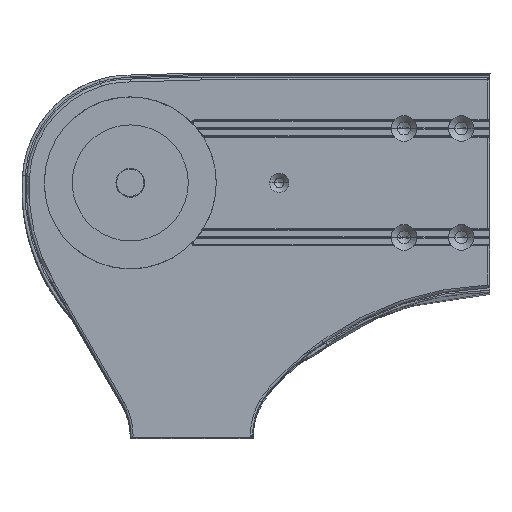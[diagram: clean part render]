
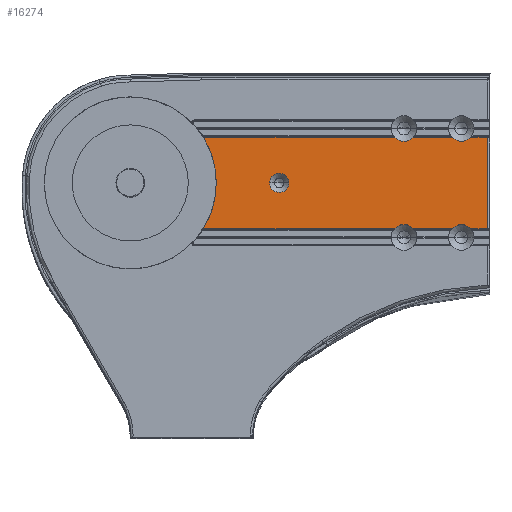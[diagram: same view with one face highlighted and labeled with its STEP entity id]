
A CAD part, top view. The second image highlights one B-rep face of the part: STEP entity #16274.
In plain terms, the highlighted planar face has unit normal (0, 0, 1).
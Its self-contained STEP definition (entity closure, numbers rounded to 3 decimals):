
#73 = VERTEX_POINT ( 'NONE', #15398 ) ;
#181 = CIRCLE ( 'NONE', #17574, 2. ) ;
#317 = CIRCLE ( 'NONE', #13941, 8.96 ) ;
#350 = LINE ( 'NONE', #14773, #3029 ) ;
#381 = EDGE_CURVE ( 'NONE', #4539, #8270, #5406, .T. ) ;
#548 = AXIS2_PLACEMENT_3D ( 'NONE', #12361, #20059, #4414 ) ;
#627 = CARTESIAN_POINT ( 'NONE',  ( 104., 0., 326.5 ) ) ;
#713 = DIRECTION ( 'NONE',  ( 1., 0., 0. ) ) ;
#841 = CIRCLE ( 'NONE', #8559, 8.96 ) ;
#1202 = CARTESIAN_POINT ( 'NONE',  ( 183.967, -32., 326.5 ) ) ;
#1440 = EDGE_CURVE ( 'NONE', #18181, #17097, #5397, .T. ) ;
#1443 = VERTEX_POINT ( 'NONE', #5287 ) ;
#1478 = CIRCLE ( 'NONE', #3812, 6.72 ) ;
#1501 = VECTOR ( 'NONE', #5802, 1000. ) ;
#1505 = CARTESIAN_POINT ( 'NONE',  ( 224.385, 32., 326.5 ) ) ;
#1648 = DIRECTION ( 'NONE',  ( 0., 0., 1. ) ) ;
#1687 = DIRECTION ( 'NONE',  ( 1., 0., 0. ) ) ;
#1738 = DIRECTION ( 'NONE',  ( -1., 0., 0. ) ) ;
#1816 = CIRCLE ( 'NONE', #11632, 2. ) ;
#1983 = CARTESIAN_POINT ( 'NONE',  ( 237.694, 32., 326.5 ) ) ;
#2043 = CIRCLE ( 'NONE', #7483, 8.96 ) ;
#2286 = AXIS2_PLACEMENT_3D ( 'NONE', #627, #8324, #17767 ) ;
#2391 = DIRECTION ( 'NONE',  ( 0., 0., -1. ) ) ;
#2823 = CARTESIAN_POINT ( 'NONE',  ( 51.247, -32., 326.5 ) ) ;
#2937 = CARTESIAN_POINT ( 'NONE',  ( 51.247, 32., 326.5 ) ) ;
#3029 = VECTOR ( 'NONE', #713, 1000. ) ;
#3063 = LINE ( 'NONE', #20267, #19460 ) ;
#3306 = ORIENTED_EDGE ( 'NONE', *, *, #1440, .F. ) ;
#3357 = CARTESIAN_POINT ( 'NONE',  ( 191.04, 38., 326.5 ) ) ;
#3380 = CARTESIAN_POINT ( 'NONE',  ( 249.04, 32.5, 326.5 ) ) ;
#3427 = ORIENTED_EDGE ( 'NONE', *, *, #17706, .T. ) ;
#3525 = EDGE_CURVE ( 'NONE', #1443, #17746, #3063, .T. ) ;
#3812 = AXIS2_PLACEMENT_3D ( 'NONE', #19476, #8448, #3944 ) ;
#3876 = DIRECTION ( 'NONE',  ( 1., 0., 0. ) ) ;
#3944 = DIRECTION ( 'NONE',  ( 1., 0., 0. ) ) ;
#3982 = VECTOR ( 'NONE', #9091, 1000. ) ;
#3993 = CARTESIAN_POINT ( 'NONE',  ( 51.247, 32., 326.5 ) ) ;
#4127 = DIRECTION ( 'NONE',  ( 1., 0., 0. ) ) ;
#4183 = DIRECTION ( 'NONE',  ( 0., 0., -1. ) ) ;
#4207 = ORIENTED_EDGE ( 'NONE', *, *, #4514, .T. ) ;
#4272 = VERTEX_POINT ( 'NONE', #10308 ) ;
#4414 = DIRECTION ( 'NONE',  ( 1., 0., 0. ) ) ;
#4514 = EDGE_CURVE ( 'NONE', #20018, #12786, #350, .T. ) ;
#4539 = VERTEX_POINT ( 'NONE', #11675 ) ;
#4622 = EDGE_CURVE ( 'NONE', #19112, #4272, #1816, .T. ) ;
#4827 = ORIENTED_EDGE ( 'NONE', *, *, #13262, .T. ) ;
#5032 = AXIS2_PLACEMENT_3D ( 'NONE', #10081, #6882, #8398 ) ;
#5099 = DIRECTION ( 'NONE',  ( 1., 0., 0. ) ) ;
#5287 = CARTESIAN_POINT ( 'NONE',  ( 237.694, -32., 326.5 ) ) ;
#5325 = CARTESIAN_POINT ( 'NONE',  ( 238.113, 32., 326.5 ) ) ;
#5347 = VECTOR ( 'NONE', #15954, 1000. ) ;
#5397 = CIRCLE ( 'NONE', #2286, 6.72 ) ;
#5406 = LINE ( 'NONE', #5325, #12022 ) ;
#5802 = DIRECTION ( 'NONE',  ( 1., 0., 0. ) ) ;
#6041 = CARTESIAN_POINT ( 'NONE',  ( 184.385, -32., 326.5 ) ) ;
#6130 = CARTESIAN_POINT ( 'NONE',  ( 110.72, 0., 326.5 ) ) ;
#6476 = EDGE_LOOP ( 'NONE', ( #11204, #13151, #10838, #19093, #4827, #18652, #4207, #11235, #10656, #16268, #7107, #16527, #17876, #9862, #3427 ) ) ;
#6579 = EDGE_CURVE ( 'NONE', #17097, #18181, #1478, .T. ) ;
#6749 = EDGE_CURVE ( 'NONE', #16931, #4272, #16920, .T. ) ;
#6882 = DIRECTION ( 'NONE',  ( 0., 0., 1. ) ) ;
#7045 = PLANE ( 'NONE',  #8683 ) ;
#7107 = ORIENTED_EDGE ( 'NONE', *, *, #381, .T. ) ;
#7133 = CARTESIAN_POINT ( 'NONE',  ( 197.694, -32., 326.5 ) ) ;
#7483 = AXIS2_PLACEMENT_3D ( 'NONE', #7817, #1648, #11141 ) ;
#7723 = EDGE_CURVE ( 'NONE', #73, #10906, #16420, .T. ) ;
#7771 = EDGE_CURVE ( 'NONE', #13588, #16931, #9633, .T. ) ;
#7817 = CARTESIAN_POINT ( 'NONE',  ( 231.04, -38., 326.5 ) ) ;
#7871 = DIRECTION ( 'NONE',  ( 0., 0., 1. ) ) ;
#7987 = VERTEX_POINT ( 'NONE', #2823 ) ;
#8205 = VERTEX_POINT ( 'NONE', #1505 ) ;
#8270 = VERTEX_POINT ( 'NONE', #1983 ) ;
#8324 = DIRECTION ( 'NONE',  ( 0., 0., 1. ) ) ;
#8398 = DIRECTION ( 'NONE',  ( 1., 0., 0. ) ) ;
#8448 = DIRECTION ( 'NONE',  ( 0., 0., 1. ) ) ;
#8559 = AXIS2_PLACEMENT_3D ( 'NONE', #12814, #18876, #14363 ) ;
#8678 = LINE ( 'NONE', #2937, #3982 ) ;
#8683 = AXIS2_PLACEMENT_3D ( 'NONE', #14774, #13294, #4127 ) ;
#8801 = CARTESIAN_POINT ( 'NONE',  ( 97.28, 0., 326.5 ) ) ;
#9091 = DIRECTION ( 'NONE',  ( -1., 0., 0. ) ) ;
#9633 = CIRCLE ( 'NONE', #5032, 60. ) ;
#9767 = DIRECTION ( 'NONE',  ( 0., 0., 1. ) ) ;
#9862 = ORIENTED_EDGE ( 'NONE', *, *, #7723, .F. ) ;
#10081 = CARTESIAN_POINT ( 'NONE',  ( 0., 0., 326.5 ) ) ;
#10308 = CARTESIAN_POINT ( 'NONE',  ( 50.707, 32.074, 326.5 ) ) ;
#10656 = ORIENTED_EDGE ( 'NONE', *, *, #3525, .T. ) ;
#10838 = ORIENTED_EDGE ( 'NONE', *, *, #7771, .F. ) ;
#10906 = VERTEX_POINT ( 'NONE', #13168 ) ;
#11141 = DIRECTION ( 'NONE',  ( 1., 0., 0. ) ) ;
#11204 = ORIENTED_EDGE ( 'NONE', *, *, #4622, .T. ) ;
#11235 = ORIENTED_EDGE ( 'NONE', *, *, #19761, .F. ) ;
#11632 = AXIS2_PLACEMENT_3D ( 'NONE', #19829, #4183, #15160 ) ;
#11675 = CARTESIAN_POINT ( 'NONE',  ( 249.04, 32., 326.5 ) ) ;
#11698 = CARTESIAN_POINT ( 'NONE',  ( 51.247, -34., 326.5 ) ) ;
#12022 = VECTOR ( 'NONE', #19456, 1000. ) ;
#12361 = CARTESIAN_POINT ( 'NONE',  ( 0., 0., 326.5 ) ) ;
#12434 = EDGE_CURVE ( 'NONE', #8205, #8270, #841, .T. ) ;
#12624 = CARTESIAN_POINT ( 'NONE',  ( 198.113, 32., 326.5 ) ) ;
#12672 = LINE ( 'NONE', #3380, #5347 ) ;
#12786 = VERTEX_POINT ( 'NONE', #14103 ) ;
#12814 = CARTESIAN_POINT ( 'NONE',  ( 231.04, 38., 326.5 ) ) ;
#12876 = EDGE_LOOP ( 'NONE', ( #13631, #3306 ) ) ;
#13113 = DIRECTION ( 'NONE',  ( 1., 0., 0. ) ) ;
#13151 = ORIENTED_EDGE ( 'NONE', *, *, #6749, .F. ) ;
#13168 = CARTESIAN_POINT ( 'NONE',  ( 197.694, 32., 326.5 ) ) ;
#13262 = EDGE_CURVE ( 'NONE', #7987, #19666, #18130, .T. ) ;
#13294 = DIRECTION ( 'NONE',  ( 0., 0., 1. ) ) ;
#13576 = FACE_BOUND ( 'NONE', #12876, .T. ) ;
#13588 = VERTEX_POINT ( 'NONE', #16462 ) ;
#13631 = ORIENTED_EDGE ( 'NONE', *, *, #6579, .F. ) ;
#13658 = AXIS2_PLACEMENT_3D ( 'NONE', #3357, #9767, #5099 ) ;
#13821 = CARTESIAN_POINT ( 'NONE',  ( 249.04, -32., 326.5 ) ) ;
#13941 = AXIS2_PLACEMENT_3D ( 'NONE', #17176, #7871, #13113 ) ;
#14103 = CARTESIAN_POINT ( 'NONE',  ( 224.385, -32., 326.5 ) ) ;
#14363 = DIRECTION ( 'NONE',  ( 1., 0., 0. ) ) ;
#14568 = LINE ( 'NONE', #12624, #19960 ) ;
#14773 = CARTESIAN_POINT ( 'NONE',  ( 223.967, -32., 326.5 ) ) ;
#14774 = CARTESIAN_POINT ( 'NONE',  ( -44.001, -176.306, 326.5 ) ) ;
#14862 = EDGE_CURVE ( 'NONE', #17746, #4539, #12672, .T. ) ;
#14989 = EDGE_CURVE ( 'NONE', #13588, #7987, #181, .T. ) ;
#15160 = DIRECTION ( 'NONE',  ( 1., 0., 0. ) ) ;
#15398 = CARTESIAN_POINT ( 'NONE',  ( 184.385, 32., 326.5 ) ) ;
#15954 = DIRECTION ( 'NONE',  ( 0., 1., 0. ) ) ;
#16104 = EDGE_CURVE ( 'NONE', #8205, #10906, #14568, .T. ) ;
#16268 = ORIENTED_EDGE ( 'NONE', *, *, #14862, .T. ) ;
#16274 = ADVANCED_FACE ( 'NONE', ( #13576, #19696 ), #7045, .T. ) ;
#16420 = CIRCLE ( 'NONE', #13658, 8.96 ) ;
#16462 = CARTESIAN_POINT ( 'NONE',  ( 50.707, -32.074, 326.5 ) ) ;
#16527 = ORIENTED_EDGE ( 'NONE', *, *, #12434, .F. ) ;
#16920 = CIRCLE ( 'NONE', #548, 60. ) ;
#16931 = VERTEX_POINT ( 'NONE', #19471 ) ;
#17097 = VERTEX_POINT ( 'NONE', #6130 ) ;
#17176 = CARTESIAN_POINT ( 'NONE',  ( 191.04, -38., 326.5 ) ) ;
#17574 = AXIS2_PLACEMENT_3D ( 'NONE', #11698, #2391, #3876 ) ;
#17706 = EDGE_CURVE ( 'NONE', #73, #19112, #8678, .T. ) ;
#17746 = VERTEX_POINT ( 'NONE', #13821 ) ;
#17767 = DIRECTION ( 'NONE',  ( 1., 0., 0. ) ) ;
#17876 = ORIENTED_EDGE ( 'NONE', *, *, #16104, .T. ) ;
#18130 = LINE ( 'NONE', #1202, #1501 ) ;
#18181 = VERTEX_POINT ( 'NONE', #8801 ) ;
#18453 = EDGE_CURVE ( 'NONE', #20018, #19666, #317, .T. ) ;
#18652 = ORIENTED_EDGE ( 'NONE', *, *, #18453, .F. ) ;
#18876 = DIRECTION ( 'NONE',  ( 0., 0., 1. ) ) ;
#19093 = ORIENTED_EDGE ( 'NONE', *, *, #14989, .T. ) ;
#19112 = VERTEX_POINT ( 'NONE', #3993 ) ;
#19456 = DIRECTION ( 'NONE',  ( -1., 0., 0. ) ) ;
#19460 = VECTOR ( 'NONE', #1687, 1000. ) ;
#19471 = CARTESIAN_POINT ( 'NONE',  ( 60., 0., 326.5 ) ) ;
#19476 = CARTESIAN_POINT ( 'NONE',  ( 104., 0., 326.5 ) ) ;
#19666 = VERTEX_POINT ( 'NONE', #6041 ) ;
#19696 = FACE_OUTER_BOUND ( 'NONE', #6476, .T. ) ;
#19761 = EDGE_CURVE ( 'NONE', #1443, #12786, #2043, .T. ) ;
#19829 = CARTESIAN_POINT ( 'NONE',  ( 51.247, 34., 326.5 ) ) ;
#19960 = VECTOR ( 'NONE', #1738, 1000. ) ;
#20018 = VERTEX_POINT ( 'NONE', #7133 ) ;
#20059 = DIRECTION ( 'NONE',  ( 0., 0., 1. ) ) ;
#20267 = CARTESIAN_POINT ( 'NONE',  ( 249.04, -32., 326.5 ) ) ;
